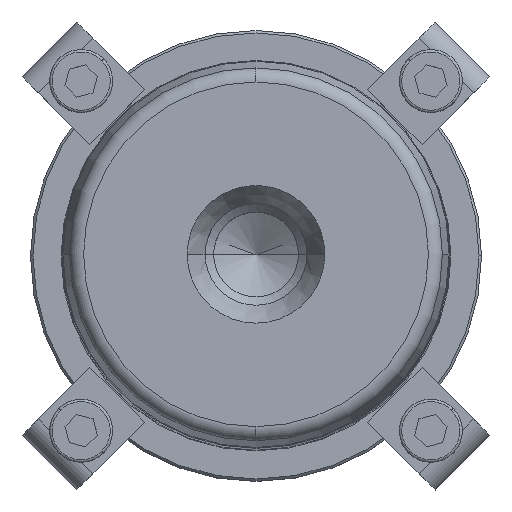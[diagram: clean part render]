
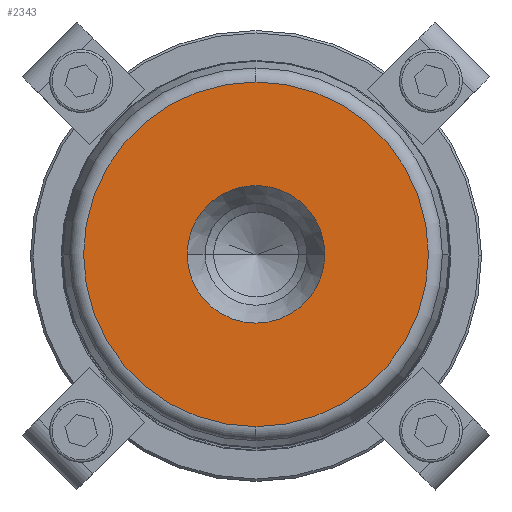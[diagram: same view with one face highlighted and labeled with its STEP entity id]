
A CAD part, top view. The second image highlights one B-rep face of the part: STEP entity #2343.
In plain terms, the highlighted planar face has unit normal (0, 0, 1).
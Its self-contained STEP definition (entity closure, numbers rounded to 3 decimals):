
#431=CARTESIAN_POINT('',(14.2,0.,200.0));
#432=VERTEX_POINT('',#431);
#439=CARTESIAN_POINT('',(-14.2,0.,200.0));
#440=VERTEX_POINT('',#439);
#441=CARTESIAN_POINT('',(0.0,0.,200.0));
#442=DIRECTION('',(0.0,0.0,1.0));
#443=DIRECTION('',(1.0,0.0,0.0));
#444=AXIS2_PLACEMENT_3D('',#441,#442,#443);
#445=CIRCLE('',#444,14.2);
#446=EDGE_CURVE('',#432,#440,#445,.T.);
#463=CARTESIAN_POINT('',(0.0,-35.554,200.));
#464=VERTEX_POINT('',#463);
#474=CARTESIAN_POINT('',(0.,35.554,200.));
#475=VERTEX_POINT('',#474);
#476=CARTESIAN_POINT('',(0.0,0.,200.));
#477=DIRECTION('',(0.0,0.0,1.0));
#478=DIRECTION('',(1.0,0.0,0.0));
#479=AXIS2_PLACEMENT_3D('',#476,#477,#478);
#480=CIRCLE('',#479,35.554);
#481=EDGE_CURVE('',#475,#464,#480,.T.);
#2304=CARTESIAN_POINT('',(35.554,0.,200.));
#2305=VERTEX_POINT('',#2304);
#2306=CARTESIAN_POINT('',(0.0,0.,200.));
#2307=DIRECTION('',(0.0,0.0,1.0));
#2308=DIRECTION('',(1.0,0.0,0.0));
#2309=AXIS2_PLACEMENT_3D('',#2306,#2307,#2308);
#2310=CIRCLE('',#2309,35.554);
#2311=EDGE_CURVE('',#2305,#475,#2310,.T.);
#2313=CARTESIAN_POINT('',(0.0,0.,200.));
#2314=DIRECTION('',(0.0,0.0,1.0));
#2315=DIRECTION('',(1.0,0.0,0.0));
#2316=AXIS2_PLACEMENT_3D('',#2313,#2314,#2315);
#2317=CIRCLE('',#2316,35.554);
#2318=EDGE_CURVE('',#464,#2305,#2317,.T.);
#2323=CARTESIAN_POINT('',(24.877,0.,200.0));
#2324=DIRECTION('',(0.0,0.0,1.0));
#2325=DIRECTION('',(0.0,-1.0,0.0));
#2326=AXIS2_PLACEMENT_3D('',#2323,#2324,#2325);
#2327=PLANE('',#2326);
#2328=ORIENTED_EDGE('',*,*,#2311,.T.);
#2329=ORIENTED_EDGE('',*,*,#481,.T.);
#2330=ORIENTED_EDGE('',*,*,#2318,.T.);
#2331=EDGE_LOOP('',(#2328,#2329,#2330));
#2332=FACE_OUTER_BOUND('',#2331,.T.);
#2333=ORIENTED_EDGE('',*,*,#446,.F.);
#2334=CARTESIAN_POINT('',(0.0,0.,200.0));
#2335=DIRECTION('',(0.0,0.0,1.0));
#2336=DIRECTION('',(1.0,0.0,0.0));
#2337=AXIS2_PLACEMENT_3D('',#2334,#2335,#2336);
#2338=CIRCLE('',#2337,14.2);
#2339=EDGE_CURVE('',#440,#432,#2338,.T.);
#2340=ORIENTED_EDGE('',*,*,#2339,.F.);
#2341=EDGE_LOOP('',(#2333,#2340));
#2342=FACE_BOUND('',#2341,.T.);
#2343=ADVANCED_FACE('',(#2332,#2342),#2327,.T.);
